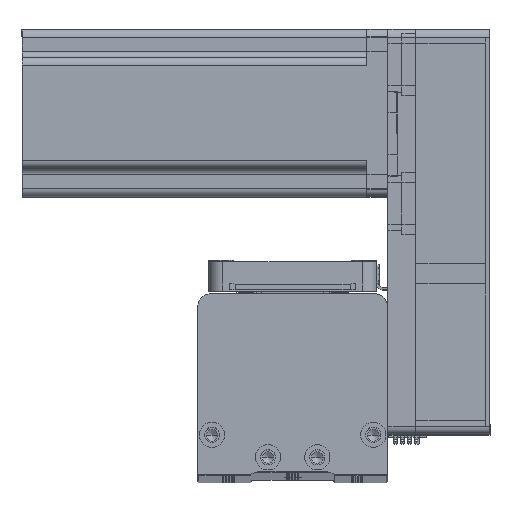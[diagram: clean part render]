
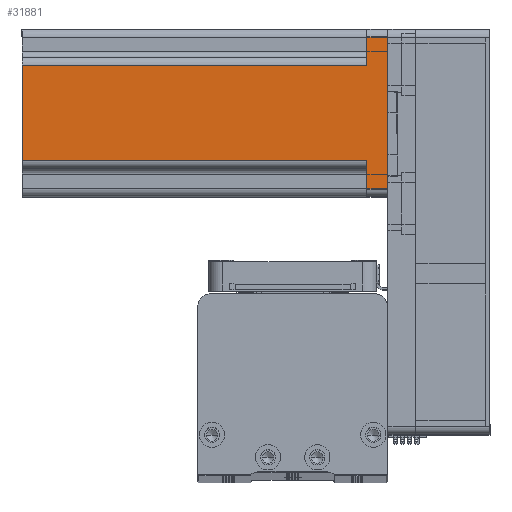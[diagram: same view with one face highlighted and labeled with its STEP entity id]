
A CAD part, top view. The second image highlights one B-rep face of the part: STEP entity #31881.
In plain terms, the highlighted planar face has unit normal (0, 0, 1) as drawn and (0, -1, 0) by its records, which use the part's own axes.
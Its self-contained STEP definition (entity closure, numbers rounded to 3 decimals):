
#626 = VERTEX_POINT ( 'NONE', #14054 ) ;
#891 = CARTESIAN_POINT ( 'NONE',  ( 30., -30., 130.7 ) ) ;
#1425 = CARTESIAN_POINT ( 'NONE',  ( -27., -30., 7.5 ) ) ;
#2193 = DIRECTION ( 'NONE',  ( 0., 0., -1. ) ) ;
#2638 = CARTESIAN_POINT ( 'NONE',  ( 30., -30., 130.7 ) ) ;
#3295 = VECTOR ( 'NONE', #4938, 1000. ) ;
#4678 = EDGE_CURVE ( 'NONE', #14974, #626, #34419, .T. ) ;
#4938 = DIRECTION ( 'NONE',  ( 0., 0., 1. ) ) ;
#5020 = VERTEX_POINT ( 'NONE', #6451 ) ;
#6451 = CARTESIAN_POINT ( 'NONE',  ( -27., -30., 0. ) ) ;
#6772 = DIRECTION ( 'NONE',  ( -1., 0., 0. ) ) ;
#7315 = VECTOR ( 'NONE', #18873, 1000. ) ;
#10220 = ORIENTED_EDGE ( 'NONE', *, *, #40983, .T. ) ;
#10380 = LINE ( 'NONE', #44393, #41719 ) ;
#12029 = DIRECTION ( 'NONE',  ( 1., 0., 0. ) ) ;
#12099 = ORIENTED_EDGE ( 'NONE', *, *, #28025, .T. ) ;
#12432 = VECTOR ( 'NONE', #30685, 1000. ) ;
#12673 = VECTOR ( 'NONE', #12029, 1000. ) ;
#13195 = LINE ( 'NONE', #891, #22744 ) ;
#13279 = ORIENTED_EDGE ( 'NONE', *, *, #20317, .T. ) ;
#14054 = CARTESIAN_POINT ( 'NONE',  ( -17., -30., 7.5 ) ) ;
#14865 = CARTESIAN_POINT ( 'NONE',  ( 17., -30., 7.5 ) ) ;
#14974 = VERTEX_POINT ( 'NONE', #1425 ) ;
#18827 = EDGE_CURVE ( 'NONE', #24828, #22931, #13195, .T. ) ;
#18873 = DIRECTION ( 'NONE',  ( 1., 0., 0. ) ) ;
#20317 = EDGE_CURVE ( 'NONE', #24828, #626, #10380, .T. ) ;
#20552 = EDGE_CURVE ( 'NONE', #46590, #22931, #50751, .T. ) ;
#21216 = DIRECTION ( 'NONE',  ( 1., 0., 0. ) ) ;
#21935 = AXIS2_PLACEMENT_3D ( 'NONE', #2638, #31216, #6772 ) ;
#21975 = LINE ( 'NONE', #34633, #12432 ) ;
#22378 = CARTESIAN_POINT ( 'NONE',  ( -27., -30., 130.7 ) ) ;
#22744 = VECTOR ( 'NONE', #21216, 1000. ) ;
#22931 = VERTEX_POINT ( 'NONE', #32238 ) ;
#24828 = VERTEX_POINT ( 'NONE', #40894 ) ;
#25005 = LINE ( 'NONE', #29417, #3295 ) ;
#28025 = EDGE_CURVE ( 'NONE', #39833, #46590, #21975, .T. ) ;
#28134 = EDGE_CURVE ( 'NONE', #5020, #30666, #50844, .T. ) ;
#29417 = CARTESIAN_POINT ( 'NONE',  ( 27., -30., 130.7 ) ) ;
#30199 = DIRECTION ( 'NONE',  ( 0., 0., 1. ) ) ;
#30214 = VECTOR ( 'NONE', #30199, 1000. ) ;
#30666 = VERTEX_POINT ( 'NONE', #33389 ) ;
#30685 = DIRECTION ( 'NONE',  ( -1., 0., 0. ) ) ;
#31216 = DIRECTION ( 'NONE',  ( 0., 1., 0. ) ) ;
#31881 = ADVANCED_FACE ( 'NONE', ( #51169 ), #39284, .F. ) ;
#32238 = CARTESIAN_POINT ( 'NONE',  ( 17., -30., 130.7 ) ) ;
#32356 = ORIENTED_EDGE ( 'NONE', *, *, #39384, .T. ) ;
#32945 = CARTESIAN_POINT ( 'NONE',  ( 27., -30., 7.5 ) ) ;
#33389 = CARTESIAN_POINT ( 'NONE',  ( 27., -30., 0. ) ) ;
#34419 = LINE ( 'NONE', #36484, #12673 ) ;
#34633 = CARTESIAN_POINT ( 'NONE',  ( 20., -30., 7.5 ) ) ;
#35152 = CARTESIAN_POINT ( 'NONE',  ( 30., -30., 0. ) ) ;
#36303 = DIRECTION ( 'NONE',  ( 0., 0., -1. ) ) ;
#36353 = ORIENTED_EDGE ( 'NONE', *, *, #28134, .T. ) ;
#36484 = CARTESIAN_POINT ( 'NONE',  ( -20., -30., 7.5 ) ) ;
#37022 = ORIENTED_EDGE ( 'NONE', *, *, #18827, .F. ) ;
#38893 = EDGE_LOOP ( 'NONE', ( #37022, #13279, #46925, #32356, #36353, #10220, #12099, #42544 ) ) ;
#39153 = VECTOR ( 'NONE', #2193, 1000. ) ;
#39284 = PLANE ( 'NONE',  #21935 ) ;
#39384 = EDGE_CURVE ( 'NONE', #14974, #5020, #50064, .T. ) ;
#39833 = VERTEX_POINT ( 'NONE', #32945 ) ;
#40894 = CARTESIAN_POINT ( 'NONE',  ( -17., -30., 130.7 ) ) ;
#40983 = EDGE_CURVE ( 'NONE', #30666, #39833, #25005, .T. ) ;
#41719 = VECTOR ( 'NONE', #36303, 1000. ) ;
#42544 = ORIENTED_EDGE ( 'NONE', *, *, #20552, .T. ) ;
#44393 = CARTESIAN_POINT ( 'NONE',  ( -17., -30., 130.7 ) ) ;
#46590 = VERTEX_POINT ( 'NONE', #14865 ) ;
#46925 = ORIENTED_EDGE ( 'NONE', *, *, #4678, .F. ) ;
#50064 = LINE ( 'NONE', #22378, #39153 ) ;
#50647 = CARTESIAN_POINT ( 'NONE',  ( 17., -30., 130.7 ) ) ;
#50751 = LINE ( 'NONE', #50647, #30214 ) ;
#50844 = LINE ( 'NONE', #35152, #7315 ) ;
#51169 = FACE_OUTER_BOUND ( 'NONE', #38893, .T. ) ;
